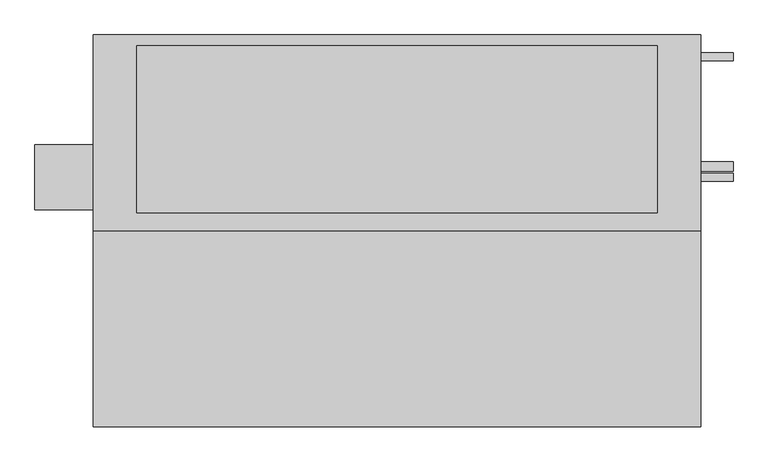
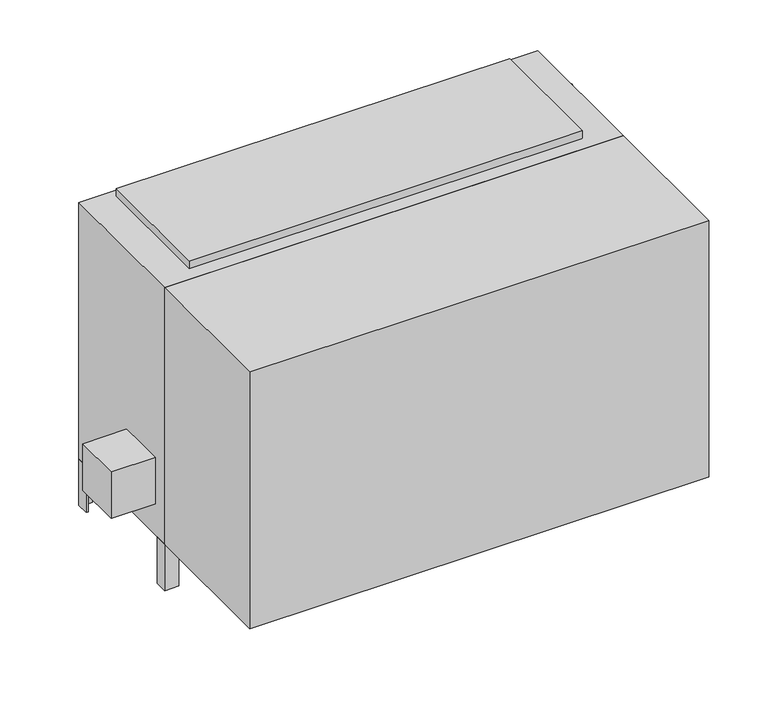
"""IFC4 building model written with IfcOpenShell, lengths in millimetres: proxy geometry, Concealed_High_Capacity_Vertical_Fan_Coil_Unit_-_42DDA_-_CARRIER_-_2-Pipe_Cool-EHeat_RH_2022 : Size 20 - 277v/60Hz/1Ph - 6 Row 14.0kW."""

from ifc_helpers import new_model, si_unit, point, frame, frame_2d, origin, origin_with_axes, place, context, project, spatial, polyline, circle_curve, trimmed, segment, composite_curve, outline, extrude, source, transform, mapped, element, save


def mechanical_equipment_9b7b7e86(model_context):
    return source(origin(), model_context, "Body", "SweptSolid", [
        extrude(outline(polyline([(863.6, -468.3125), (863.6, -925.5125), (-558.8, -925.5125), (-558.8, -468.3125), (863.6, -468.3125)])), origin_with_axes(), (0.0, 0.0, 1.0), 841.375),
        extrude(outline(polyline([(-695.325, -417.5125), (-695.325, -265.1125), (-558.8, -265.1125), (-558.8, -417.5125), (-695.325, -417.5125)])), frame((0.0, 0.0, 101.6), z_axis=(0.0, 0.0, 1.0), x_axis=(1.0, 0.0, 0.0)), (0.0, 0.0, 1.0), 152.4),
        extrude(outline(polyline([(863.6, -46.0375), (857.25, -46.0375), (857.25, -14.2875), (825.5, -14.2875), (825.5, -7.9375), (863.6, -7.9375), (863.6, -46.0375)])), frame((0.0, 0.0, -152.4), z_axis=(0.0, 0.0, 1.0), x_axis=(1.0, 0.0, 0.0)), (0.0, 0.0, 1.0), 152.4),
        extrude(outline(polyline([(-520.7, -7.9375), (-520.7, -14.2875), (-552.45, -14.2875), (-552.45, -46.0375), (-558.8, -46.0375), (-558.8, -7.9375), (-520.7, -7.9375)])), frame((0.0, 0.0, -152.4), z_axis=(0.0, 0.0, 1.0), x_axis=(1.0, 0.0, 0.0)), (0.0, 0.0, 1.0), 152.4),
        extrude(outline(polyline([(825.5, -468.3125), (825.5, -461.9625), (857.25, -461.9625), (857.25, -430.2125), (863.6, -430.2125), (863.6, -468.3125), (825.5, -468.3125)])), frame((0.0, 0.0, -152.4), z_axis=(0.0, 0.0, 1.0), x_axis=(1.0, 0.0, 0.0)), (0.0, 0.0, 1.0), 152.4),
        extrude(outline(polyline([(-558.8, -428.1199163), (-552.45, -428.1199163), (-552.45, -461.9625), (-515.3318533, -461.9625), (-515.3318533, -468.3125), (-558.8, -468.3125), (-558.8, -428.1199163)])), frame((0.0, 0.0, -152.4), z_axis=(0.0, 0.0, 1.0), x_axis=(1.0, 0.0, 0.0)), (0.0, 0.0, 1.0), 152.4),
        extrude(outline(polyline([(762.0, -33.3375), (762.0, -423.8625), (-457.2, -423.8625), (-457.2, -33.3375), (762.0, -33.3375)])), frame((0.0, 0.0, 841.375), z_axis=(0.0, 0.0, 1.0), x_axis=(1.0, 0.0, 0.0)), (0.0, 0.0, 1.0), 25.4),
        extrude(outline(polyline([(838.2, -471.4875), (-533.4, -471.4875), (-533.4, -468.3125), (838.2, -468.3125), (838.2, -471.4875)])), frame((0.0, 0.0, 50.8), z_axis=(0.0, 0.0, 1.0), x_axis=(1.0, 0.0, 0.0)), (0.0, 0.0, 1.0), 304.8),
        extrude(outline(composite_curve([segment(trimmed(circle_curve(frame_2d((-58.7375, 727.075)), 9.525), [point((-49.2125, 727.075))], [point((-68.2625, 727.075))], False, "CARTESIAN"), True, "CONTINUOUS"), segment(trimmed(circle_curve(frame_2d((-58.7375, 727.075)), 9.525), [point((-68.2625, 727.075))], [point((-49.2125, 727.075))], False, "CARTESIAN"), True, "CONTINUOUS")], self_intersect=False)), frame((863.6, 0.0, 0.0), z_axis=(1.0, 0.0, 0.0), x_axis=(0.0, 1.0, 0.0)), (0.0, 0.0, 1.0), 76.2),
        extrude(outline(composite_curve([segment(trimmed(circle_curve(frame_2d((-341.3125, 625.475)), 9.525), [point((-331.7875, 625.475))], [point((-350.8375, 625.475))], False, "CARTESIAN"), True, "CONTINUOUS"), segment(trimmed(circle_curve(frame_2d((-341.3125, 625.475)), 9.525), [point((-350.8375, 625.475))], [point((-331.7875, 625.475))], False, "CARTESIAN"), True, "CONTINUOUS")], self_intersect=False)), frame((863.6, 0.0, 0.0), z_axis=(1.0, 0.0, 0.0), x_axis=(0.0, 1.0, 0.0)), (0.0, 0.0, 1.0), 76.2),
        extrude(outline(composite_curve([segment(trimmed(circle_curve(frame_2d((-315.9125, 536.575)), 11.1125), [point((-304.8, 536.575))], [point((-327.025, 536.575))], False, "CARTESIAN"), True, "CONTINUOUS"), segment(trimmed(circle_curve(frame_2d((-315.9125, 536.575)), 11.1125), [point((-327.025, 536.575))], [point((-304.8, 536.575))], False, "CARTESIAN"), True, "CONTINUOUS")], self_intersect=False)), frame((863.6, 0.0, 0.0), z_axis=(1.0, 0.0, 0.0), x_axis=(0.0, 1.0, 0.0)), (0.0, 0.0, 1.0), 76.2),
        extrude(outline(polyline([(863.6, -7.9375), (863.6, -468.3125), (-558.8, -468.3125), (-558.8, -7.9375), (863.6, -7.9375)])), origin_with_axes(), (0.0, 0.0, 1.0), 841.375),
    ])


if __name__ == "__main__":
    model = new_model("IFC4")
    model_context = context("Model", 3, world=origin())
    ifc_project = project(units=[si_unit("LENGTHUNIT", "METRE", prefix="MILLI")], contexts=[model_context])
    site = spatial("IfcSite", under=ifc_project)
    building = spatial("IfcBuilding", under=site)
    placement = place(None, origin())
    mechanical_equipment_shape = mechanical_equipment_9b7b7e86(model_context)
    element("IfcBuildingElementProxy", 1, Name="Concealed_High_Capacity_Vertical_Fan_Coil_Unit_-_42DDA_-_CARRIER_-_2-Pipe_Cool-EHeat_RH_2022 : Size 20 - 277v/60Hz/1Ph - 6 Row 14.0kW", ObjectType="Concealed_High_Capacity_Vertical_Fan_Coil_Unit_-_42DDA_-_CARRIER_-_2-Pipe_Cool-EHeat_RH_2022 : Size 20 - 277v/60Hz/1Ph - 6 Row 14.0kW", at=placement, inside=building, context=model_context, shape_type="MappedRepresentation", body=[
        mapped(mechanical_equipment_shape, transform((0.0, 0.0, 0.0), x_axis=(1.0, 0.0, 0.0), y_axis=(0.0, 1.0, 0.0), z_axis=(0.0, 0.0, 1.0))),
    ])
    save(model, "model.ifc")
